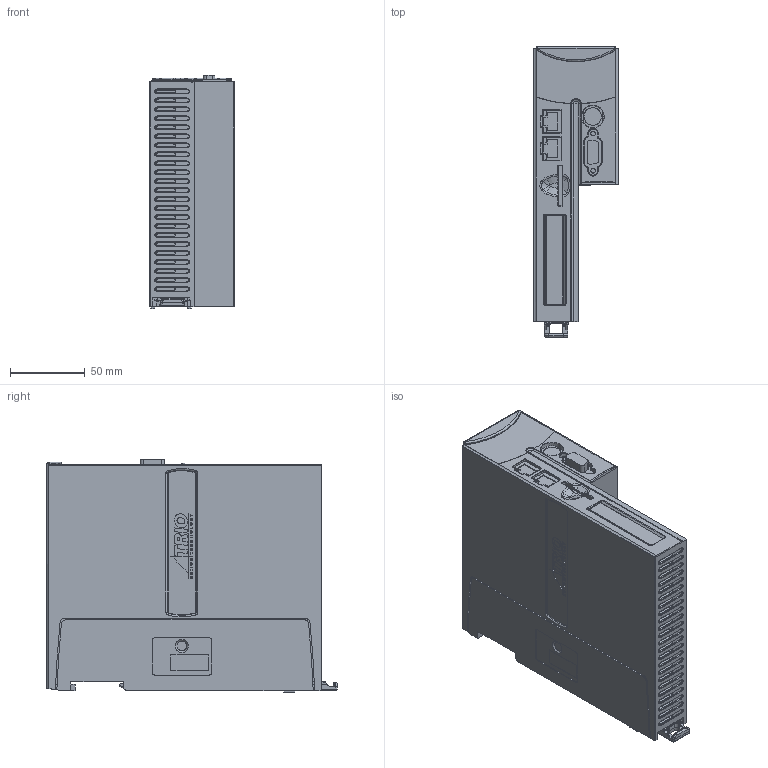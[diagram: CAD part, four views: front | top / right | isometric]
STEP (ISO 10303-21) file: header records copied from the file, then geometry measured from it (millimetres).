
FILE_DESCRIPTION (( 'STEP AP203' ), '1' );
FILE_NAME ('MC_464_MAIN_UNIT.STEP', '2011-11-24T16:29:28', ( 'Ross' ), ( 'John Ewans Design' ), 'SwSTEP 2.0', 'SolidWorks 2011', '' );
FILE_SCHEMA (( 'CONFIG_CONTROL_DESIGN' ));
Products named in the file (1): MC_464_MAIN_UNIT
Bounding box: 56.6 x 194.72 x 156.85 mm (x, y, z)
Volume: 1171874.2 mm3; surface area: 115832.9 mm2
Topology: 1 solids, 1 shells, 2686 faces, 7569 edges, 5099 vertices
Faces by surface type: plane 1373, bspline 656, cylinder 528, cone 97, torus 27, sphere 5
Entity records: 172568 total; most frequent: CARTESIAN_POINT 110361, ORIENTED_EDGE 15120, DIRECTION 9512, EDGE_CURVE 7560, VERTEX_POINT 5099, VECTOR 3666, LINE 3666, EDGE_LOOP 2933
